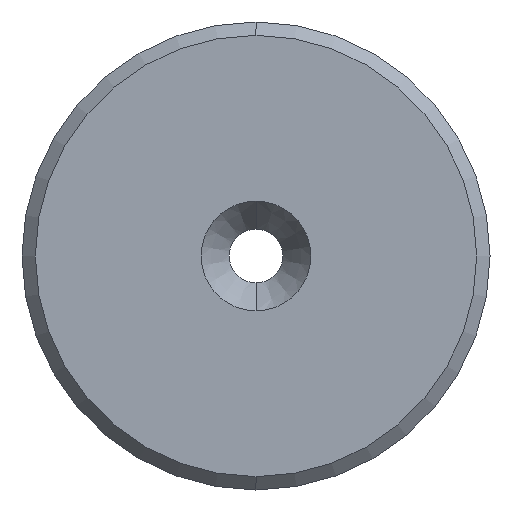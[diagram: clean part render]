
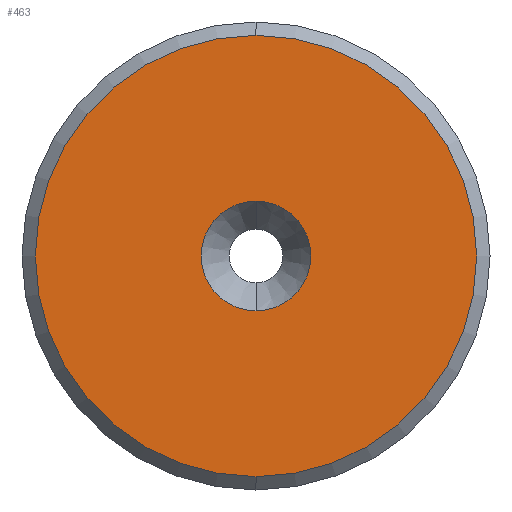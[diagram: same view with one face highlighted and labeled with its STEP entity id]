
A CAD part, left-side view. The second image highlights one B-rep face of the part: STEP entity #463.
In plain terms, the highlighted planar face has unit normal (-1, 0, 0).
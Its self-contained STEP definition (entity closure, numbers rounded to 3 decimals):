
#24 = EDGE_CURVE ( 'NONE', #482, #85, #290, .T. ) ;
#27 = EDGE_CURVE ( 'NONE', #85, #482, #72, .T. ) ;
#29 = CARTESIAN_POINT ( 'NONE',  ( 0., 0., 16.5 ) ) ;
#36 = CIRCLE ( 'NONE', #67, 4.101 ) ;
#49 = DIRECTION ( 'NONE',  ( -1., 0., 0. ) ) ;
#60 = VERTEX_POINT ( 'NONE', #494 ) ;
#67 = AXIS2_PLACEMENT_3D ( 'NONE', #288, #49, #325 ) ;
#69 = DIRECTION ( 'NONE',  ( -1., 0., 0. ) ) ;
#72 = CIRCLE ( 'NONE', #362, 16.5 ) ;
#85 = VERTEX_POINT ( 'NONE', #29 ) ;
#96 = DIRECTION ( 'NONE',  ( 1., 0., 0. ) ) ;
#146 = FACE_OUTER_BOUND ( 'NONE', #456, .T. ) ;
#159 = CIRCLE ( 'NONE', #307, 4.101 ) ;
#187 = ORIENTED_EDGE ( 'NONE', *, *, #27, .T. ) ;
#215 = PLANE ( 'NONE',  #487 ) ;
#232 = EDGE_CURVE ( 'NONE', #60, #265, #36, .T. ) ;
#237 = DIRECTION ( 'NONE',  ( 0., 0., 1. ) ) ;
#265 = VERTEX_POINT ( 'NONE', #365 ) ;
#269 = DIRECTION ( 'NONE',  ( 0., 0., -1. ) ) ;
#288 = CARTESIAN_POINT ( 'NONE',  ( 0., 0., 0. ) ) ;
#290 = CIRCLE ( 'NONE', #335, 16.5 ) ;
#293 = FACE_BOUND ( 'NONE', #492, .T. ) ;
#306 = DIRECTION ( 'NONE',  ( -1., 0., 0. ) ) ;
#307 = AXIS2_PLACEMENT_3D ( 'NONE', #440, #366, #237 ) ;
#325 = DIRECTION ( 'NONE',  ( 0., 0., 1. ) ) ;
#331 = DIRECTION ( 'NONE',  ( 0., 0., -1. ) ) ;
#335 = AXIS2_PLACEMENT_3D ( 'NONE', #376, #69, #269 ) ;
#348 = CARTESIAN_POINT ( 'NONE',  ( 0., 0., 0. ) ) ;
#350 = ORIENTED_EDGE ( 'NONE', *, *, #24, .T. ) ;
#362 = AXIS2_PLACEMENT_3D ( 'NONE', #348, #306, #417 ) ;
#365 = CARTESIAN_POINT ( 'NONE',  ( 0., 0., 4.101 ) ) ;
#366 = DIRECTION ( 'NONE',  ( -1., 0., 0. ) ) ;
#367 = ORIENTED_EDGE ( 'NONE', *, *, #401, .F. ) ;
#370 = CARTESIAN_POINT ( 'NONE',  ( 0., 4.101, 0. ) ) ;
#376 = CARTESIAN_POINT ( 'NONE',  ( 0., 0., 0. ) ) ;
#401 = EDGE_CURVE ( 'NONE', #265, #60, #159, .T. ) ;
#417 = DIRECTION ( 'NONE',  ( 0., 0., -1. ) ) ;
#440 = CARTESIAN_POINT ( 'NONE',  ( 0., 0., 0. ) ) ;
#456 = EDGE_LOOP ( 'NONE', ( #350, #187 ) ) ;
#463 = ADVANCED_FACE ( 'NONE', ( #146, #293 ), #215, .F. ) ;
#482 = VERTEX_POINT ( 'NONE', #483 ) ;
#483 = CARTESIAN_POINT ( 'NONE',  ( 0., 0., -16.5 ) ) ;
#487 = AXIS2_PLACEMENT_3D ( 'NONE', #370, #96, #331 ) ;
#488 = ORIENTED_EDGE ( 'NONE', *, *, #232, .F. ) ;
#492 = EDGE_LOOP ( 'NONE', ( #367, #488 ) ) ;
#494 = CARTESIAN_POINT ( 'NONE',  ( 0., 0., -4.101 ) ) ;
